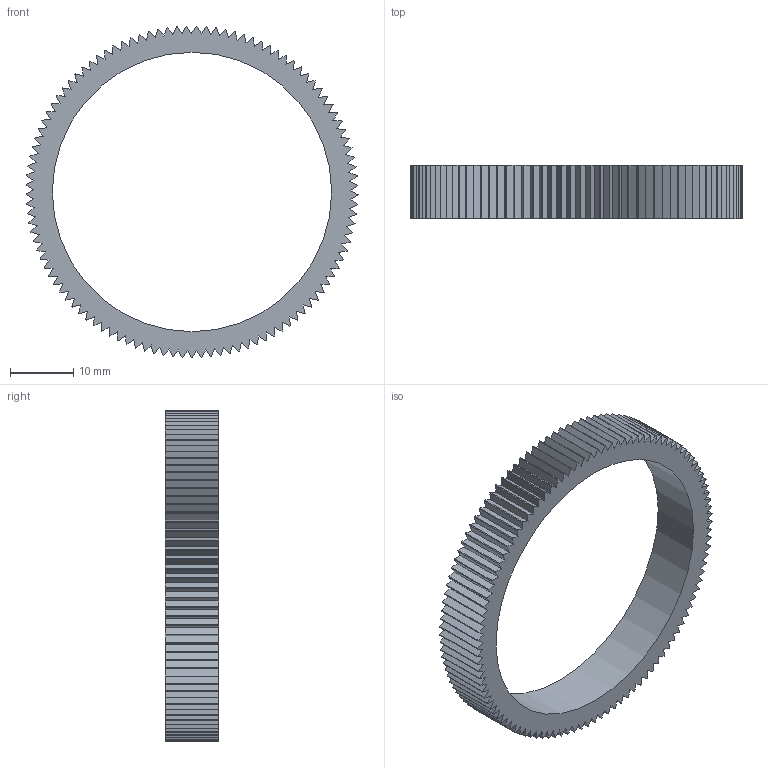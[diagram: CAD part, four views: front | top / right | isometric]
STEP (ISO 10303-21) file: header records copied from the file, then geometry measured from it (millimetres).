
FILE_DESCRIPTION((''),'2;1');
FILE_NAME('F:\AirCom-Produktdokumentation\Befestigungswinkel-Muttern\CAD\CAD AirCom\3D\B-R10X51.stp','2008-09-29T16:41:31',('Frank Schroers'),(''),'Autodesk Inventor 2008','Autodesk Inventor 2008','');
FILE_SCHEMA(('AUTOMOTIVE_DESIGN { 1 0 10303 214 1 1 1 1 }'));
Length unit declared in the file: millimetre
Products named in the file (1): B-R10X51
Bounding box: 52.29 x 8.38 x 52.29 mm (x, y, z)
Volume: 4350.2 mm3; surface area: 4844.1 mm2
Topology: 1 solids, 1 shells, 332 faces, 987 edges, 658 vertices
Faces by surface type: plane 221, cylinder 111
Full cylindrical faces by diameter (mm): 44 x1, 47.84 x1
Entity records: 11133 total; most frequent: CARTESIAN_POINT 1976, ORIENTED_EDGE 1970, DIRECTION 1873, EDGE_CURVE 985, VECTOR 763, LINE 763, VERTEX_POINT 658, AXIS2_PLACEMENT_3D 555
